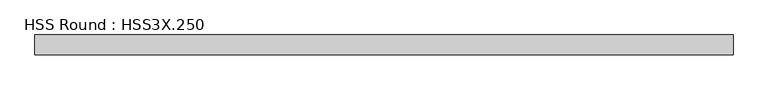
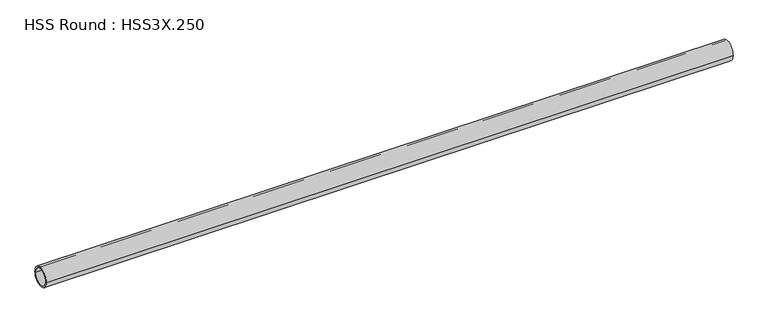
"""IFC4 building model written with IfcOpenShell, lengths in millimetres: member geometry, HSS Round : HSS3X.250."""

from ifc_helpers import new_model, si_unit, point, frame, origin, origin_2d, place, context, project, spatial, circle_curve, trimmed, segment, composite_curve, outline, extrude, source, transform, mapped, element, save


def hss_round_hss3x_250_aa3f84e9(model_context):
    return source(origin(), model_context, "Body", "SweptSolid", [
        extrude(outline(composite_curve([segment(trimmed(circle_curve(origin_2d(), 38.1), [point((-38.1, 0.0))], [point((38.1, 0.0))], False, "CARTESIAN"), True, "CONTINUOUS"), segment(trimmed(circle_curve(origin_2d(), 38.1), [point((38.1, 0.0))], [point((-38.1, 0.0))], False, "CARTESIAN"), True, "CONTINUOUS")], self_intersect=False), holes=[composite_curve([segment(trimmed(circle_curve(origin_2d(), 31.75), [point((31.75, 0.0))], [point((-31.75, 0.0))], True, "CARTESIAN"), True, "CONTINUOUS"), segment(trimmed(circle_curve(origin_2d(), 31.75), [point((-31.75, 0.0))], [point((31.75, 0.0))], True, "CARTESIAN"), True, "CONTINUOUS")], self_intersect=False)]), frame((-1391.4374904, 0.0, 0.0), z_axis=(1.0, 0.0, 0.0), x_axis=(0.0, 1.0, 0.0)), (0.0, 0.0, 1.0), 2649.9136475),
    ])


if __name__ == "__main__":
    model = new_model("IFC4")
    model_context = context("Model", 3, world=origin())
    ifc_project = project(units=[si_unit("LENGTHUNIT", "METRE", prefix="MILLI")], contexts=[model_context])
    site = spatial("IfcSite", under=ifc_project)
    building = spatial("IfcBuilding", under=site)
    placement = place(None, origin())
    hss_round_hss3x_250_shape = hss_round_hss3x_250_aa3f84e9(model_context)
    element("IfcMember", 1, ObjectType="HSS Round : HSS3X.250", at=placement, inside=building, context=model_context, shape_type="MappedRepresentation", body=[
        mapped(hss_round_hss3x_250_shape, transform((0.0, 0.0, 0.0), x_axis=(1.0, 0.0, 0.0), y_axis=(0.0, 1.0, 0.0), z_axis=(0.0, 0.0, 1.0))),
    ])
    save(model, "model.ifc")
